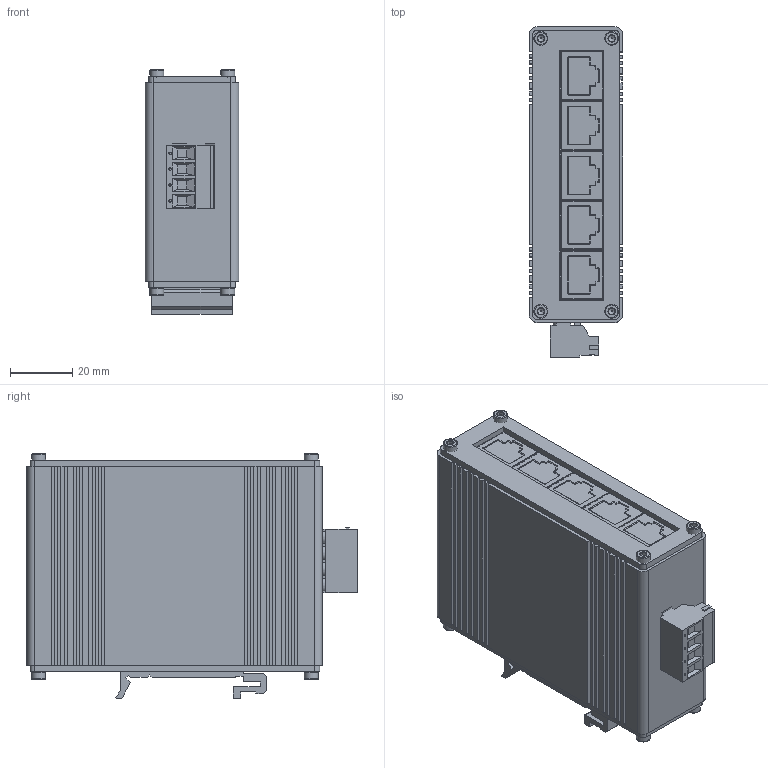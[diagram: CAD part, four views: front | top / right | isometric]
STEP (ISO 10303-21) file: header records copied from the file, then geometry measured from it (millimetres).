
FILE_DESCRIPTION(('FreeCAD Model'),'2;1');
FILE_NAME('Open CASCADE Shape Model','2024-06-07T19:55:37',(''),(''), 'Open CASCADE STEP processor 7.6','FreeCAD','Unknown');
FILE_SCHEMA(('AUTOMOTIVE_DESIGN { 1 0 10303 214 1 1 1 1 }'));
Length unit declared in the file: millimetre
Products named in the file (27): UGS_1005; CoverBack; CoverFront; M2.5x8-Screw; M2.5x8-Screw018; M2.5x8-Screw022; M2.5x8-Screw021; M2.5x8-Screw020; M2.5x8-Screw010; M2.5x8-Screw013; M2.5x8-Screw014; 4pin power plug; RJ45 1; Shell; RJ45 2; Shell001; RJ45 3; Shell002; RJ45 4; Shell003; RJ45 5; Shell004; Din-rail clamp; M3x8-Screw; M3x8-Screw001; Body; Logo
Assembly tree (26 placements, depth 3):
  UGS_1005
    CoverBack
    CoverFront
    M2.5x8-Screw
    M2.5x8-Screw018
    M2.5x8-Screw022
    M2.5x8-Screw021
    M2.5x8-Screw020
    M2.5x8-Screw010
    M2.5x8-Screw013
    M2.5x8-Screw014
    4pin power plug
    RJ45 1
      Shell
    RJ45 2
      Shell001
    RJ45 3
      Shell002
    RJ45 4
      Shell003
    RJ45 5
      Shell004
    Din-rail clamp
    M3x8-Screw
    M3x8-Screw001
    Body
    Logo
Bounding box: 30.03 x 106.19 x 78.5 mm (x, y, z)
Volume: 214159.7 mm3; surface area: 67795.8 mm2
Topology: 112 solids, 112 shells, 2413 faces, 11768 edges, 28424 vertices
Faces by surface type: plane 992, cylinder 609, torus 200, sphere 180, bspline 160, extrusion 142, cone 112, revolution 18
Full cylindrical faces by diameter (mm): 0.6 x40, 2.5 x8, 3 x2, 4.5 x8, 5.3 x2
Entity records: 245452 total; most frequent: CARTESIAN_POINT 84946, DIRECTION 29375, VECTOR 13827, LINE 13685, ORIENTED_EDGE 10696, PCURVE 10692, DEFINITIONAL_REPRESENTATION 10692, AXIS2_PLACEMENT_3D 7516
